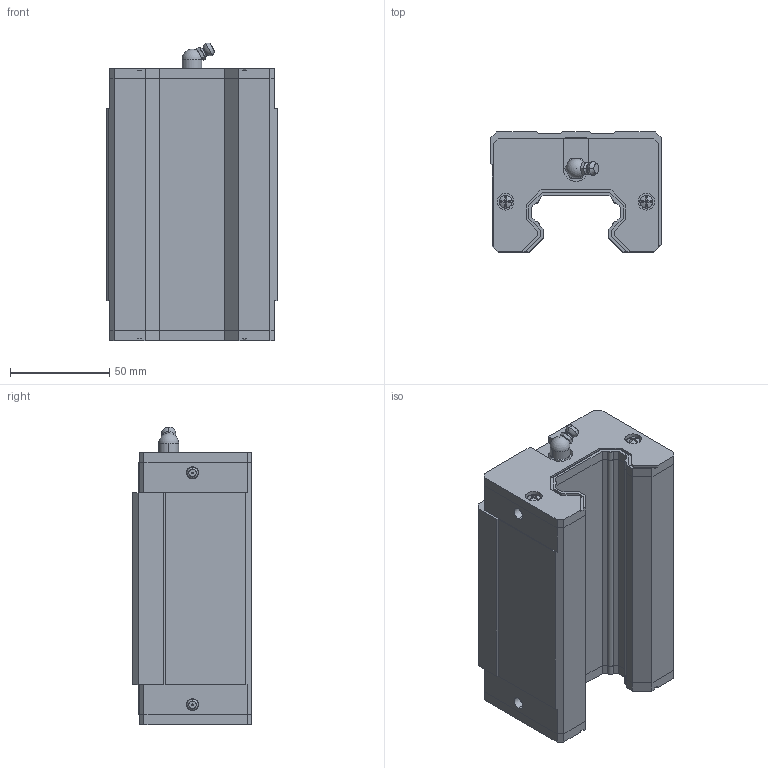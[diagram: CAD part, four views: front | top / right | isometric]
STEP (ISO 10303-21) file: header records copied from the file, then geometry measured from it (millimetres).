
FILE_DESCRIPTION (( 'STEP AP203' ), '1' );
FILE_NAME ('HGH45CA.STEP', '2021-10-22T07:52:04', ( '微软用户' ), ( '微软中国' ), 'SwSTEP 2.0', 'SolidWorks 2012', '' );
FILE_SCHEMA (( 'CONFIG_CONTROL_DESIGN' ));
Length unit declared in the file: millimetre
Products named in the file (1): HGH45CA
Bounding box: 86 x 60.5 x 150.3 mm (x, y, z)
Volume: 526716.4 mm3; surface area: 74332.4 mm2
Topology: 3 solids, 3 shells, 382 faces, 989 edges, 641 vertices
Faces by surface type: plane 250, cylinder 76, cone 31, torus 20, sphere 5
Entity records: 12278 total; most frequent: CARTESIAN_POINT 2760, DIRECTION 1963, ORIENTED_EDGE 1956, EDGE_CURVE 978, VECTOR 671, LINE 671, AXIS2_PLACEMENT_3D 646, VERTEX_POINT 639
